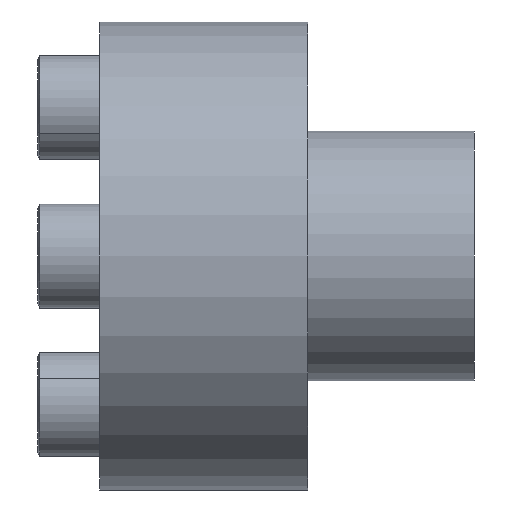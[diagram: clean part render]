
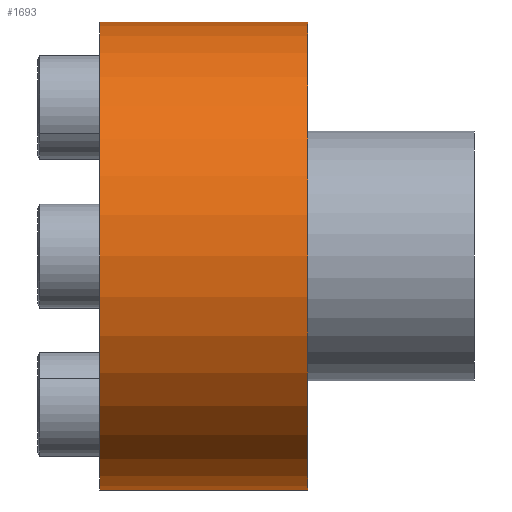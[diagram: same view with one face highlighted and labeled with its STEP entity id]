
A CAD part, front view. The second image highlights one B-rep face of the part: STEP entity #1693.
In plain terms, the highlighted cylindrical face has radius 22.5 mm (diameter 45 mm), a partial arc.
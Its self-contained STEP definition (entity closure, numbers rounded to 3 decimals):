
#290 = DIRECTION ( 'NONE',  ( 0., 0., 1. ) ) ;
#291 = DIRECTION ( 'NONE',  ( -1., 0., 0. ) ) ;
#292 = AXIS2_PLACEMENT_3D ( 'NONE', #345, #291, #290 ) ;
#293 = CYLINDRICAL_SURFACE ( 'NONE', #292, 22.5 ) ;
#345 = CARTESIAN_POINT ( 'NONE',  ( 0., 0., 0. ) ) ;
#346 = DIRECTION ( 'NONE',  ( 0., 0., 1. ) ) ;
#347 = DIRECTION ( 'NONE',  ( -1., 0., 0. ) ) ;
#348 = CARTESIAN_POINT ( 'NONE',  ( 20., 0., 0. ) ) ;
#349 = AXIS2_PLACEMENT_3D ( 'NONE', #348, #347, #346 ) ;
#350 = CIRCLE ( 'NONE', #349, 22.5 ) ;
#351 = FACE_OUTER_BOUND ( 'NONE', #1694, .T. ) ;
#1114 = DIRECTION ( 'NONE',  ( 0., 0., 1. ) ) ;
#1115 = DIRECTION ( 'NONE',  ( -1., 0., 0. ) ) ;
#1116 = CARTESIAN_POINT ( 'NONE',  ( 0., 0., 0. ) ) ;
#1117 = AXIS2_PLACEMENT_3D ( 'NONE', #1116, #1115, #1114 ) ;
#1118 = CIRCLE ( 'NONE', #1117, 22.5 ) ;
#1179 = CARTESIAN_POINT ( 'NONE',  ( 20., 0., 22.5 ) ) ;
#1209 = DIRECTION ( 'NONE',  ( -1., 0., 0. ) ) ;
#1210 = VECTOR ( 'NONE', #1209, 1000. ) ;
#1211 = CARTESIAN_POINT ( 'NONE',  ( 0., 0., 22.5 ) ) ;
#1212 = LINE ( 'NONE', #1211, #1210 ) ;
#1213 = CARTESIAN_POINT ( 'NONE',  ( 0., 0., 22.5 ) ) ;
#1219 = CARTESIAN_POINT ( 'NONE',  ( 0., 0., -22.5 ) ) ;
#1220 = DIRECTION ( 'NONE',  ( -1., 0., 0. ) ) ;
#1221 = VECTOR ( 'NONE', #1220, 1000. ) ;
#1222 = CARTESIAN_POINT ( 'NONE',  ( 0., 0., -22.5 ) ) ;
#1223 = LINE ( 'NONE', #1222, #1221 ) ;
#1224 = CARTESIAN_POINT ( 'NONE',  ( 20., 0., -22.5 ) ) ;
#1345 = VERTEX_POINT ( 'NONE', #1179 ) ;
#1405 = EDGE_CURVE ( 'NONE', #1421, #1424, #1118, .T. ) ;
#1418 = VERTEX_POINT ( 'NONE', #1224 ) ;
#1420 = EDGE_CURVE ( 'NONE', #1418, #1421, #1223, .T. ) ;
#1421 = VERTEX_POINT ( 'NONE', #1219 ) ;
#1424 = VERTEX_POINT ( 'NONE', #1213 ) ;
#1426 = EDGE_CURVE ( 'NONE', #1345, #1424, #1212, .T. ) ;
#1503 = ORIENTED_EDGE ( 'NONE', *, *, #1426, .T. ) ;
#1504 = ORIENTED_EDGE ( 'NONE', *, *, #1405, .F. ) ;
#1691 = ORIENTED_EDGE ( 'NONE', *, *, #1692, .T. ) ;
#1692 = EDGE_CURVE ( 'NONE', #1418, #1345, #350, .T. ) ;
#1693 = ADVANCED_FACE ( 'NONE', ( #351 ), #293, .T. ) ;
#1694 = EDGE_LOOP ( 'NONE', ( #1695, #1691, #1503, #1504 ) ) ;
#1695 = ORIENTED_EDGE ( 'NONE', *, *, #1420, .F. ) ;
